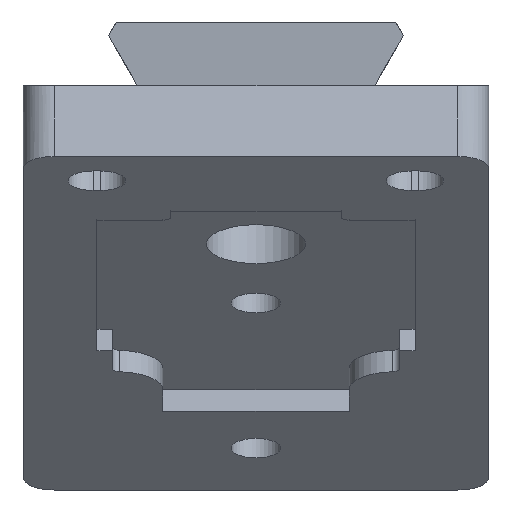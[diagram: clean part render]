
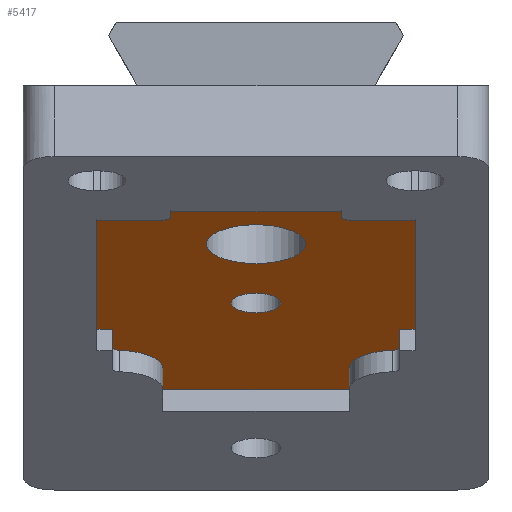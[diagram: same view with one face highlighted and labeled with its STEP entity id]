
A CAD part, left-side view. The second image highlights one B-rep face of the part: STEP entity #5417.
In plain terms, the highlighted planar face has unit normal (-0.391, 0, -0.92).
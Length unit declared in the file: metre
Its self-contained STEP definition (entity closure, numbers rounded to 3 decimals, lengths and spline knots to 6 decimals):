
#352=CIRCLE('',#5459,0.0016);
#354=CIRCLE('',#5462,0.0032);
#435=CIRCLE('',#5764,0.0005);
#436=CIRCLE('',#5765,0.003);
#437=CIRCLE('',#5766,0.003);
#438=CIRCLE('',#5767,0.0005);
#439=CIRCLE('',#5768,0.0005);
#440=CIRCLE('',#5769,0.0005);
#1959=ORIENTED_EDGE('',*,*,#2789,.T.);
#1960=ORIENTED_EDGE('',*,*,#2803,.T.);
#1961=ORIENTED_EDGE('',*,*,#2804,.T.);
#1962=ORIENTED_EDGE('',*,*,#2790,.T.);
#1963=ORIENTED_EDGE('',*,*,#2794,.T.);
#1964=ORIENTED_EDGE('',*,*,#2796,.F.);
#1965=ORIENTED_EDGE('',*,*,#2805,.T.);
#1966=ORIENTED_EDGE('',*,*,#2806,.T.);
#1967=ORIENTED_EDGE('',*,*,#2797,.F.);
#1968=ORIENTED_EDGE('',*,*,#2801,.F.);
#1969=ORIENTED_EDGE('',*,*,#2802,.T.);
#1970=ORIENTED_EDGE('',*,*,#2772,.F.);
#1971=ORIENTED_EDGE('',*,*,#2807,.T.);
#1972=ORIENTED_EDGE('',*,*,#2774,.T.);
#1973=ORIENTED_EDGE('',*,*,#2778,.T.);
#1974=ORIENTED_EDGE('',*,*,#2780,.F.);
#1975=ORIENTED_EDGE('',*,*,#2808,.T.);
#1976=ORIENTED_EDGE('',*,*,#2781,.F.);
#1977=ORIENTED_EDGE('',*,*,#2785,.F.);
#1978=ORIENTED_EDGE('',*,*,#2787,.F.);
#1979=ORIENTED_EDGE('',*,*,#2059,.F.);
#1980=ORIENTED_EDGE('',*,*,#2061,.F.);
#2059=EDGE_CURVE('',#2849,#2849,#352,.T.);
#2061=EDGE_CURVE('',#2851,#2851,#354,.T.);
#2772=EDGE_CURVE('',#3322,#3323,#3808,.T.);
#2774=EDGE_CURVE('',#3324,#3325,#3810,.T.);
#2778=EDGE_CURVE('',#3325,#3326,#3814,.T.);
#2780=EDGE_CURVE('',#3327,#3326,#3816,.T.);
#2781=EDGE_CURVE('',#3328,#3329,#3817,.T.);
#2785=EDGE_CURVE('',#3330,#3328,#3821,.T.);
#2787=EDGE_CURVE('',#3331,#3330,#3823,.T.);
#2789=EDGE_CURVE('',#3331,#3332,#3825,.T.);
#2790=EDGE_CURVE('',#3333,#3334,#3826,.T.);
#2794=EDGE_CURVE('',#3334,#3335,#3830,.T.);
#2796=EDGE_CURVE('',#3336,#3335,#3832,.T.);
#2797=EDGE_CURVE('',#3337,#3338,#3833,.T.);
#2801=EDGE_CURVE('',#3339,#3337,#3837,.T.);
#2802=EDGE_CURVE('',#3339,#3323,#3838,.T.);
#2803=EDGE_CURVE('',#3332,#3340,#435,.T.);
#2804=EDGE_CURVE('',#3340,#3333,#436,.F.);
#2805=EDGE_CURVE('',#3336,#3341,#437,.F.);
#2806=EDGE_CURVE('',#3341,#3338,#438,.T.);
#2807=EDGE_CURVE('',#3322,#3324,#439,.F.);
#2808=EDGE_CURVE('',#3327,#3329,#440,.F.);
#2849=VERTEX_POINT('',#7039);
#2851=VERTEX_POINT('',#7044);
#3322=VERTEX_POINT('',#9366);
#3323=VERTEX_POINT('',#9368);
#3324=VERTEX_POINT('',#9372);
#3325=VERTEX_POINT('',#9373);
#3326=VERTEX_POINT('',#9378);
#3327=VERTEX_POINT('',#9382);
#3328=VERTEX_POINT('',#9386);
#3329=VERTEX_POINT('',#9387);
#3330=VERTEX_POINT('',#9392);
#3331=VERTEX_POINT('',#9396);
#3332=VERTEX_POINT('',#9400);
#3333=VERTEX_POINT('',#9404);
#3334=VERTEX_POINT('',#9405);
#3335=VERTEX_POINT('',#9410);
#3336=VERTEX_POINT('',#9414);
#3337=VERTEX_POINT('',#9418);
#3338=VERTEX_POINT('',#9419);
#3339=VERTEX_POINT('',#9424);
#3340=VERTEX_POINT('',#9430);
#3341=VERTEX_POINT('',#9433);
#3808=LINE('',#9367,#4307);
#3810=LINE('',#9371,#4309);
#3814=LINE('',#9379,#4313);
#3816=LINE('',#9383,#4315);
#3817=LINE('',#9385,#4316);
#3821=LINE('',#9393,#4320);
#3823=LINE('',#9397,#4322);
#3825=LINE('',#9401,#4324);
#3826=LINE('',#9403,#4325);
#3830=LINE('',#9411,#4329);
#3832=LINE('',#9415,#4331);
#3833=LINE('',#9417,#4332);
#3837=LINE('',#9425,#4336);
#3838=LINE('',#9427,#4337);
#4307=VECTOR('',#6866,1.);
#4309=VECTOR('',#6870,1.);
#4313=VECTOR('',#6876,1.);
#4315=VECTOR('',#6880,1.);
#4316=VECTOR('',#6883,1.);
#4320=VECTOR('',#6889,1.);
#4322=VECTOR('',#6893,1.);
#4324=VECTOR('',#6897,1.);
#4325=VECTOR('',#6900,1.);
#4329=VECTOR('',#6906,1.);
#4331=VECTOR('',#6910,1.);
#4332=VECTOR('',#6913,1.);
#4336=VECTOR('',#6919,1.);
#4337=VECTOR('',#6922,1.);
#4652=EDGE_LOOP('',(#1959,#1960,#1961,#1962,#1963,#1964,#1965,#1966,#1967,
#1968,#1969,#1970,#1971,#1972,#1973,#1974,#1975,#1976,#1977,#1978));
#4653=EDGE_LOOP('',(#1979));
#4654=EDGE_LOOP('',(#1980));
#4977=FACE_BOUND('',#4652,.T.);
#4978=FACE_BOUND('',#4653,.T.);
#4979=FACE_BOUND('',#4654,.T.);
#5139=PLANE('',#5763);
#5417=ADVANCED_FACE('',(#4977,#4978,#4979),#5139,.T.);
#5459=AXIS2_PLACEMENT_3D('',#7038,#5840,#5841);
#5462=AXIS2_PLACEMENT_3D('',#7043,#5846,#5847);
#5763=AXIS2_PLACEMENT_3D('',#9428,#6923,#6924);
#5764=AXIS2_PLACEMENT_3D('',#9429,#6925,#6926);
#5765=AXIS2_PLACEMENT_3D('',#9431,#6927,#6928);
#5766=AXIS2_PLACEMENT_3D('',#9432,#6929,#6930);
#5767=AXIS2_PLACEMENT_3D('',#9434,#6931,#6932);
#5768=AXIS2_PLACEMENT_3D('',#9435,#6933,#6934);
#5769=AXIS2_PLACEMENT_3D('',#9436,#6935,#6936);
#5840=DIRECTION('',(-0.391,0.,-0.921));
#5841=DIRECTION('',(-0.921,0.,0.391));
#5846=DIRECTION('',(-0.391,0.,-0.921));
#5847=DIRECTION('',(-0.921,0.,0.391));
#6866=DIRECTION('',(0.,-1.,0.));
#6870=DIRECTION('',(-0.921,0.,0.391));
#6876=DIRECTION('',(0.,1.,0.));
#6880=DIRECTION('',(-0.921,0.,0.391));
#6883=DIRECTION('',(0.,-1.,0.));
#6889=DIRECTION('',(-0.921,0.,0.391));
#6893=DIRECTION('',(0.,1.,0.));
#6897=DIRECTION('',(0.921,0.,-0.391));
#6900=DIRECTION('',(0.921,0.,-0.391));
#6906=DIRECTION('',(0.,-1.,0.));
#6910=DIRECTION('',(0.921,0.,-0.391));
#6913=DIRECTION('',(0.921,0.,-0.391));
#6919=DIRECTION('',(0.,1.,0.));
#6922=DIRECTION('',(-0.921,0.,0.391));
#6923=DIRECTION('',(-0.391,0.,-0.921));
#6924=DIRECTION('',(0.921,0.,-0.391));
#6925=DIRECTION('',(-0.391,0.,-0.921));
#6926=DIRECTION('',(-0.921,0.,0.391));
#6927=DIRECTION('',(-0.391,0.,-0.921));
#6928=DIRECTION('',(-0.921,0.,0.391));
#6929=DIRECTION('',(-0.391,0.,-0.921));
#6930=DIRECTION('',(-0.921,0.,0.391));
#6931=DIRECTION('',(-0.391,0.,-0.921));
#6932=DIRECTION('',(-0.921,0.,0.391));
#6933=DIRECTION('',(-0.391,0.,-0.921));
#6934=DIRECTION('',(-0.921,0.,0.391));
#6935=DIRECTION('',(-0.391,0.,-0.921));
#6936=DIRECTION('',(-0.921,0.,0.391));
#7038=CARTESIAN_POINT('',(0.024148,0.,-0.014003));
#7039=CARTESIAN_POINT('',(0.022676,0.,-0.013377));
#7043=CARTESIAN_POINT('',(0.01522,0.,-0.010212));
#7044=CARTESIAN_POINT('',(0.012274,0.,-0.008962));
#9366=CARTESIAN_POINT('',(0.008316,-0.006,-0.007282));
#9367=CARTESIAN_POINT('',(0.008316,-0.007875,-0.007282));
#9368=CARTESIAN_POINT('',(0.008316,-0.01025,-0.007282));
#9371=CARTESIAN_POINT('',(0.007671,-0.0055,-0.007008));
#9372=CARTESIAN_POINT('',(0.007856,-0.0055,-0.007087));
#9373=CARTESIAN_POINT('',(0.007027,-0.0055,-0.006735));
#9378=CARTESIAN_POINT('',(0.007027,0.0055,-0.006735));
#9379=CARTESIAN_POINT('',(0.007027,0.,-0.006735));
#9382=CARTESIAN_POINT('',(0.007856,0.0055,-0.007087));
#9383=CARTESIAN_POINT('',(0.007671,0.0055,-0.007008));
#9385=CARTESIAN_POINT('',(0.008316,0.007875,-0.007282));
#9386=CARTESIAN_POINT('',(0.008316,0.01025,-0.007282));
#9387=CARTESIAN_POINT('',(0.008316,0.006,-0.007282));
#9392=CARTESIAN_POINT('',(0.028107,0.01025,-0.015683));
#9393=CARTESIAN_POINT('',(0.018211,0.01025,-0.011482));
#9396=CARTESIAN_POINT('',(0.028107,0.00925,-0.015683));
#9397=CARTESIAN_POINT('',(0.028107,0.00975,-0.015683));
#9400=CARTESIAN_POINT('',(0.030876,0.00925,-0.016858));
#9401=CARTESIAN_POINT('',(0.029717,0.00925,-0.016366));
#9403=CARTESIAN_POINT('',(0.03432,0.006,-0.01832));
#9404=CARTESIAN_POINT('',(0.03409,0.006,-0.018222));
#9405=CARTESIAN_POINT('',(0.037312,0.006,-0.01959));
#9410=CARTESIAN_POINT('',(0.037312,-0.006,-0.01959));
#9411=CARTESIAN_POINT('',(0.037312,0.,-0.01959));
#9414=CARTESIAN_POINT('',(0.03409,-0.006,-0.018222));
#9415=CARTESIAN_POINT('',(0.03432,-0.006,-0.01832));
#9417=CARTESIAN_POINT('',(0.029717,-0.00925,-0.016366));
#9418=CARTESIAN_POINT('',(0.028107,-0.00925,-0.015683));
#9419=CARTESIAN_POINT('',(0.030876,-0.00925,-0.016858));
#9424=CARTESIAN_POINT('',(0.028107,-0.01025,-0.015683));
#9425=CARTESIAN_POINT('',(0.028107,-0.00975,-0.015683));
#9427=CARTESIAN_POINT('',(0.021663,-0.01025,-0.012948));
#9428=CARTESIAN_POINT('',(0.023964,0.,-0.013924));
#9429=CARTESIAN_POINT('',(0.030876,0.00875,-0.016858));
#9430=CARTESIAN_POINT('',(0.031335,0.008786,-0.017053));
#9431=CARTESIAN_POINT('',(0.03409,0.009,-0.018222));
#9432=CARTESIAN_POINT('',(0.03409,-0.009,-0.018222));
#9433=CARTESIAN_POINT('',(0.031335,-0.008786,-0.017053));
#9434=CARTESIAN_POINT('',(0.030876,-0.00875,-0.016858));
#9435=CARTESIAN_POINT('',(0.007856,-0.006,-0.007087));
#9436=CARTESIAN_POINT('',(0.007856,0.006,-0.007087));
